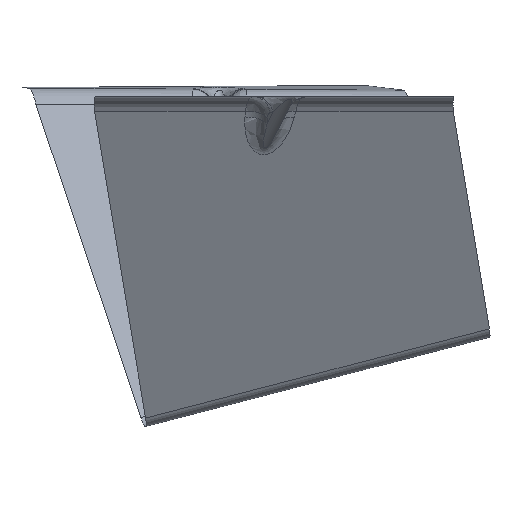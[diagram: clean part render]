
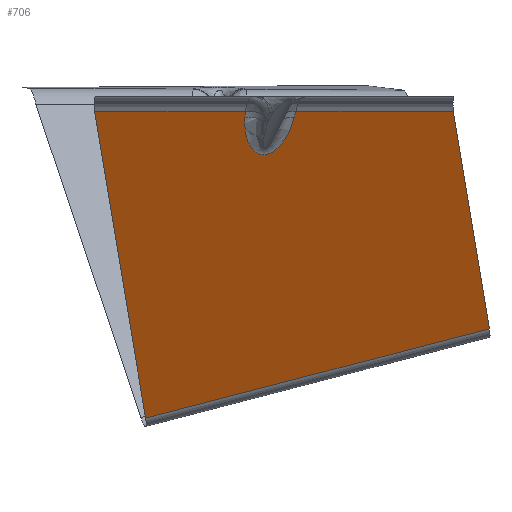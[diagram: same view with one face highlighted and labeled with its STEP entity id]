
A CAD part, left-side view. The second image highlights one B-rep face of the part: STEP entity #706.
In plain terms, the highlighted planar face has unit normal (-0.83, -0.249, -0.5).
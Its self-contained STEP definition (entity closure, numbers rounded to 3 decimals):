
#251=CARTESIAN_POINT('Vertex',(-96.349,8.174,-0.85)) ;
#274=CARTESIAN_POINT('Line Origine',(-76.38,10.52,-35.147)) ;
#278=CARTESIAN_POINT('Vertex',(-95.399,8.286,-2.482)) ;
#591=CARTESIAN_POINT('Control Point',(-91.268,-5.486,-2.482)) ;
#592=CARTESIAN_POINT('Control Point',(-91.046,-5.375,-2.904)) ;
#593=CARTESIAN_POINT('Control Point',(-90.828,-5.253,-3.327)) ;
#594=CARTESIAN_POINT('Control Point',(-90.613,-5.121,-3.749)) ;
#595=CARTESIAN_POINT('Control Point',(-90.006,-4.711,-4.961)) ;
#596=CARTESIAN_POINT('Control Point',(-89.432,-4.208,-6.163)) ;
#597=CARTESIAN_POINT('Control Point',(-89.075,-3.838,-6.939)) ;
#598=CARTESIAN_POINT('Control Point',(-88.594,-3.243,-8.034)) ;
#599=CARTESIAN_POINT('Control Point',(-88.167,-2.524,-9.1)) ;
#600=CARTESIAN_POINT('Control Point',(-88.045,-2.298,-9.414)) ;
#601=CARTESIAN_POINT('Control Point',(-87.834,-1.859,-9.983)) ;
#602=CARTESIAN_POINT('Control Point',(-87.649,-1.368,-10.535)) ;
#603=CARTESIAN_POINT('Control Point',(-87.57,-1.133,-10.782)) ;
#604=CARTESIAN_POINT('Control Point',(-87.397,-0.526,-11.371)) ;
#605=CARTESIAN_POINT('Control Point',(-87.281,0.171,-11.912)) ;
#606=CARTESIAN_POINT('Control Point',(-87.236,0.623,-12.211)) ;
#607=CARTESIAN_POINT('Control Point',(-87.225,1.33,-12.581)) ;
#608=CARTESIAN_POINT('Control Point',(-87.323,2.119,-12.811)) ;
#609=CARTESIAN_POINT('Control Point',(-87.362,2.359,-12.865)) ;
#610=CARTESIAN_POINT('Control Point',(-87.463,2.839,-12.937)) ;
#611=CARTESIAN_POINT('Control Point',(-87.607,3.318,-12.936)) ;
#612=CARTESIAN_POINT('Control Point',(-87.688,3.549,-12.918)) ;
#613=CARTESIAN_POINT('Control Point',(-87.866,4.,-12.846)) ;
#614=CARTESIAN_POINT('Control Point',(-88.069,4.412,-12.714)) ;
#615=CARTESIAN_POINT('Control Point',(-88.176,4.608,-12.634)) ;
#616=CARTESIAN_POINT('Control Point',(-88.563,5.261,-12.318)) ;
#617=CARTESIAN_POINT('Control Point',(-88.975,5.785,-11.894)) ;
#618=CARTESIAN_POINT('Control Point',(-89.272,6.106,-11.562)) ;
#619=CARTESIAN_POINT('Control Point',(-89.772,6.58,-10.969)) ;
#620=CARTESIAN_POINT('Control Point',(-90.265,6.955,-10.337)) ;
#621=CARTESIAN_POINT('Control Point',(-90.466,7.095,-10.072)) ;
#622=CARTESIAN_POINT('Control Point',(-90.918,7.383,-9.467)) ;
#623=CARTESIAN_POINT('Control Point',(-91.362,7.612,-8.845)) ;
#624=CARTESIAN_POINT('Control Point',(-91.607,7.725,-8.494)) ;
#625=CARTESIAN_POINT('Control Point',(-92.499,8.088,-7.194)) ;
#626=CARTESIAN_POINT('Control Point',(-93.36,8.279,-5.861)) ;
#627=CARTESIAN_POINT('Control Point',(-93.969,8.35,-4.885)) ;
#628=CARTESIAN_POINT('Control Point',(-94.618,8.36,-3.814)) ;
#629=CARTESIAN_POINT('Control Point',(-95.249,8.302,-2.739)) ;
#630=CARTESIAN_POINT('Control Point',(-95.299,8.297,-2.653)) ;
#631=CARTESIAN_POINT('Control Point',(-95.349,8.292,-2.567)) ;
#632=CARTESIAN_POINT('Control Point',(-95.399,8.286,-2.482)) ;
#633=CARTESIAN_POINT('Vertex',(-91.268,-5.486,-2.482)) ;
#651=CARTESIAN_POINT('Axis2P3D Location',(-42.75,-12.825,-79.32)) ;
#656=CARTESIAN_POINT('Line Origine',(-91.695,-5.701,-1.666)) ;
#660=CARTESIAN_POINT('Vertex',(-92.122,-5.916,-0.85)) ;
#663=CARTESIAN_POINT('Line Origine',(-102.652,29.184,-0.85)) ;
#667=CARTESIAN_POINT('Vertex',(-108.955,50.193,-0.85)) ;
#670=CARTESIAN_POINT('Line Origine',(-81.056,43.1,-43.604)) ;
#674=CARTESIAN_POINT('Vertex',(-53.158,36.007,-86.357)) ;
#677=CARTESIAN_POINT('Line Origine',(-46.277,-11.928,-73.915)) ;
#681=CARTESIAN_POINT('Vertex',(-39.396,-59.864,-61.472)) ;
#684=CARTESIAN_POINT('Line Origine',(-59.176,-54.835,-31.161)) ;
#688=CARTESIAN_POINT('Vertex',(-78.955,-49.807,-0.85)) ;
#691=CARTESIAN_POINT('Line Origine',(-85.539,-27.861,-0.85)) ;
#275=DIRECTION('Vector Direction',(0.502,0.059,-0.863)) ;
#652=DIRECTION('Axis2P3D Direction',(0.83,0.249,0.5)) ;
#653=DIRECTION('Axis2P3D XDirection',(0.541,-0.138,-0.83)) ;
#657=DIRECTION('Vector Direction',(-0.452,-0.227,0.863)) ;
#664=DIRECTION('Vector Direction',(0.287,-0.958,0.)) ;
#671=DIRECTION('Vector Direction',(0.541,-0.138,-0.83)) ;
#678=DIRECTION('Vector Direction',(0.138,-0.959,0.249)) ;
#685=DIRECTION('Vector Direction',(-0.541,0.138,0.83)) ;
#692=DIRECTION('Vector Direction',(0.287,-0.958,0.)) ;
#654=AXIS2_PLACEMENT_3D('Plane Axis2P3D',#651,#652,#653) ;
#697=ORIENTED_EDGE('',*,*,#662,.T.) ;
#698=ORIENTED_EDGE('',*,*,#635,.T.) ;
#699=ORIENTED_EDGE('',*,*,#280,.T.) ;
#700=ORIENTED_EDGE('',*,*,#669,.F.) ;
#701=ORIENTED_EDGE('',*,*,#676,.T.) ;
#702=ORIENTED_EDGE('',*,*,#683,.T.) ;
#703=ORIENTED_EDGE('',*,*,#690,.T.) ;
#704=ORIENTED_EDGE('',*,*,#695,.F.) ;
#276=VECTOR('Line Direction',#275,1.) ;
#658=VECTOR('Line Direction',#657,1.) ;
#665=VECTOR('Line Direction',#664,1.) ;
#672=VECTOR('Line Direction',#671,1.) ;
#679=VECTOR('Line Direction',#678,1.) ;
#686=VECTOR('Line Direction',#685,1.) ;
#693=VECTOR('Line Direction',#692,1.) ;
#706=ADVANCED_FACE('Extract.1',(#705),#655,.F.) ;
#590=B_SPLINE_CURVE_WITH_KNOTS('',5,(#591,#592,#593,#594,#595,#596,#597,#598,#599,#600,#601,#602,#603,#604,#605,#606,#607,#608,#609,#610,#611,#612,#613,#614,#615,#616,#617,#618,#619,#620,#621,#622,#623,#624,#625,#626,#627,#628,#629,#630,#631,#632),.UNSPECIFIED.,.F.,.U.,(6,3,3,3,3,3,3,3,3,3,3,3,3,6),(25.634,28.895,35.005,37.584,39.756,42.867,44.175,45.445,46.725,49.962,52.224,55.063,62.681,63.342),.UNSPECIFIED.) ;
#280=EDGE_CURVE('',#279,#252,#277,.F.) ;
#635=EDGE_CURVE('',#634,#279,#590,.T.) ;
#662=EDGE_CURVE('',#661,#634,#659,.F.) ;
#669=EDGE_CURVE('',#668,#252,#666,.T.) ;
#676=EDGE_CURVE('',#668,#675,#673,.T.) ;
#683=EDGE_CURVE('',#675,#682,#680,.T.) ;
#690=EDGE_CURVE('',#682,#689,#687,.T.) ;
#695=EDGE_CURVE('',#661,#689,#694,.T.) ;
#696=EDGE_LOOP('',(#697,#698,#699,#700,#701,#702,#703,#704)) ;
#705=FACE_OUTER_BOUND('',#696,.T.) ;
#277=LINE('Line',#274,#276) ;
#659=LINE('Line',#656,#658) ;
#666=LINE('Line',#663,#665) ;
#673=LINE('Line',#670,#672) ;
#680=LINE('Line',#677,#679) ;
#687=LINE('Line',#684,#686) ;
#694=LINE('Line',#691,#693) ;
#655=PLANE('',#654) ;
#252=VERTEX_POINT('',#251) ;
#279=VERTEX_POINT('',#278) ;
#634=VERTEX_POINT('',#633) ;
#661=VERTEX_POINT('',#660) ;
#668=VERTEX_POINT('',#667) ;
#675=VERTEX_POINT('',#674) ;
#682=VERTEX_POINT('',#681) ;
#689=VERTEX_POINT('',#688) ;
